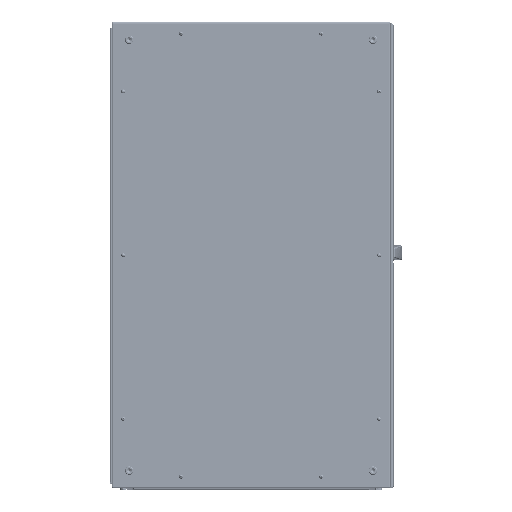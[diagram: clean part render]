
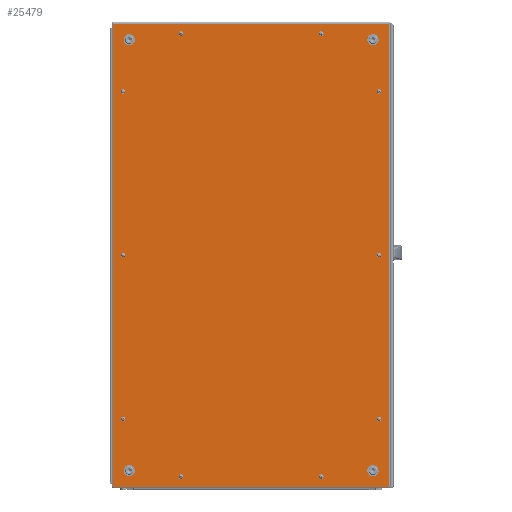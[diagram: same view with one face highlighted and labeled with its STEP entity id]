
A CAD part, top view. The second image highlights one B-rep face of the part: STEP entity #25479.
In plain terms, the highlighted planar face has unit normal (0, 0, 1).
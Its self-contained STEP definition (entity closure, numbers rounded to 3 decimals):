
#25479=ADVANCED_FACE('',(#153616,#153618,#153620,#153622,#153624,#153626,#153628,
#153630,#153632,#153634,#153636,#153638,#153640,#153642,#153644),#153646,.T.);
#153616=FACE_BOUND('',#153617,.T.);
#153617=EDGE_LOOP('',(#377326,#377327,#377328,#377329));
#153618=FACE_BOUND('',#153619,.T.);
#153619=EDGE_LOOP('',(#377330));
#153620=FACE_BOUND('',#153621,.T.);
#153621=EDGE_LOOP('',(#377331));
#153622=FACE_BOUND('',#153623,.T.);
#153623=EDGE_LOOP('',(#377332));
#153624=FACE_BOUND('',#153625,.T.);
#153625=EDGE_LOOP('',(#377333));
#153626=FACE_BOUND('',#153627,.T.);
#153627=EDGE_LOOP('',(#377334));
#153628=FACE_BOUND('',#153629,.T.);
#153629=EDGE_LOOP('',(#377335));
#153630=FACE_BOUND('',#153631,.T.);
#153631=EDGE_LOOP('',(#377336));
#153632=FACE_BOUND('',#153633,.T.);
#153633=EDGE_LOOP('',(#377337));
#153634=FACE_BOUND('',#153635,.T.);
#153635=EDGE_LOOP('',(#377338));
#153636=FACE_BOUND('',#153637,.T.);
#153637=EDGE_LOOP('',(#377339));
#153638=FACE_BOUND('',#153639,.T.);
#153639=EDGE_LOOP('',(#377340));
#153640=FACE_BOUND('',#153641,.T.);
#153641=EDGE_LOOP('',(#377341));
#153642=FACE_BOUND('',#153643,.T.);
#153643=EDGE_LOOP('',(#377342));
#153644=FACE_BOUND('',#153645,.T.);
#153645=EDGE_LOOP('',(#377343));
#153646=PLANE('',#153647);
#153647=AXIS2_PLACEMENT_3D('',#153648,#153649,#153650);
#153648=CARTESIAN_POINT('',(0.,0.,1.5));
#153649=DIRECTION('',(0.,0.,1.));
#153650=DIRECTION('',(0.,1.,0.));
#377326=ORIENTED_EDGE('',*,*,#425259,.T.);
#377327=ORIENTED_EDGE('',*,*,#425260,.T.);
#377328=ORIENTED_EDGE('',*,*,#425261,.T.);
#377329=ORIENTED_EDGE('',*,*,#425262,.T.);
#377330=ORIENTED_EDGE('',*,*,#425238,.T.);
#377331=ORIENTED_EDGE('',*,*,#425237,.T.);
#377332=ORIENTED_EDGE('',*,*,#425236,.T.);
#377333=ORIENTED_EDGE('',*,*,#425235,.T.);
#377334=ORIENTED_EDGE('',*,*,#425234,.T.);
#377335=ORIENTED_EDGE('',*,*,#425233,.T.);
#377336=ORIENTED_EDGE('',*,*,#425229,.T.);
#377337=ORIENTED_EDGE('',*,*,#425230,.T.);
#377338=ORIENTED_EDGE('',*,*,#425231,.T.);
#377339=ORIENTED_EDGE('',*,*,#425232,.T.);
#377340=ORIENTED_EDGE('',*,*,#425227,.T.);
#377341=ORIENTED_EDGE('',*,*,#425226,.T.);
#377342=ORIENTED_EDGE('',*,*,#425225,.T.);
#377343=ORIENTED_EDGE('',*,*,#425224,.T.);
#425224=EDGE_CURVE('',#490170,#490170,#490171,.F.);
#425225=EDGE_CURVE('',#490172,#490172,#490173,.F.);
#425226=EDGE_CURVE('',#490174,#490174,#490175,.F.);
#425227=EDGE_CURVE('',#490176,#490176,#490177,.F.);
#425229=EDGE_CURVE('',#490180,#490180,#490181,.F.);
#425230=EDGE_CURVE('',#490182,#490182,#490183,.F.);
#425231=EDGE_CURVE('',#490184,#490184,#490185,.F.);
#425232=EDGE_CURVE('',#490186,#490186,#490187,.F.);
#425233=EDGE_CURVE('',#490188,#490188,#490189,.F.);
#425234=EDGE_CURVE('',#490190,#490190,#490191,.F.);
#425235=EDGE_CURVE('',#490192,#490192,#490193,.F.);
#425236=EDGE_CURVE('',#490194,#490194,#490195,.F.);
#425237=EDGE_CURVE('',#490196,#490196,#490197,.F.);
#425238=EDGE_CURVE('',#490198,#490198,#490199,.F.);
#425259=EDGE_CURVE('',#490236,#490237,#490238,.T.);
#425260=EDGE_CURVE('',#490237,#490239,#490240,.T.);
#425261=EDGE_CURVE('',#490239,#490241,#490242,.T.);
#425262=EDGE_CURVE('',#490241,#490236,#490243,.T.);
#490170=VERTEX_POINT('',#636738);
#490171=CIRCLE('',#636739,3.75);
#490172=VERTEX_POINT('',#636743);
#490173=CIRCLE('',#636744,3.75);
#490174=VERTEX_POINT('',#636748);
#490175=CIRCLE('',#636749,3.75);
#490176=VERTEX_POINT('',#636753);
#490177=CIRCLE('',#636754,3.75);
#490180=VERTEX_POINT('',#636763);
#490181=CIRCLE('',#636764,7.);
#490182=VERTEX_POINT('',#636768);
#490183=CIRCLE('',#636769,7.);
#490184=VERTEX_POINT('',#636773);
#490185=CIRCLE('',#636774,7.);
#490186=VERTEX_POINT('',#636778);
#490187=CIRCLE('',#636779,7.);
#490188=VERTEX_POINT('',#636783);
#490189=CIRCLE('',#636784,3.75);
#490190=VERTEX_POINT('',#636788);
#490191=CIRCLE('',#636789,3.75);
#490192=VERTEX_POINT('',#636793);
#490193=CIRCLE('',#636794,3.75);
#490194=VERTEX_POINT('',#636798);
#490195=CIRCLE('',#636799,3.75);
#490196=VERTEX_POINT('',#636803);
#490197=CIRCLE('',#636804,3.75);
#490198=VERTEX_POINT('',#636808);
#490199=CIRCLE('',#636809,3.75);
#490236=VERTEX_POINT('',#637025);
#490237=VERTEX_POINT('',#637026);
#490238=LINE('',#637027,#637028);
#490239=VERTEX_POINT('',#637030);
#490240=LINE('',#637031,#637032);
#490241=VERTEX_POINT('',#637034);
#490242=LINE('',#637035,#637036);
#490243=LINE('',#637038,#637039);
#636738=CARTESIAN_POINT('',(-273.5,353.75,1.5));
#636739=AXIS2_PLACEMENT_3D('',#636740,#636741,#636742);
#636740=CARTESIAN_POINT('',(-273.5,350.,1.5));
#636741=DIRECTION('',(0.,0.,1.));
#636742=DIRECTION('',(0.,1.,0.));
#636743=CARTESIAN_POINT('',(273.5,-346.25,1.5));
#636744=AXIS2_PLACEMENT_3D('',#636745,#636746,#636747);
#636745=CARTESIAN_POINT('',(273.5,-350.,1.5));
#636746=DIRECTION('',(0.,0.,1.));
#636747=DIRECTION('',(0.,1.,0.));
#636748=CARTESIAN_POINT('',(273.5,353.75,1.5));
#636749=AXIS2_PLACEMENT_3D('',#636750,#636751,#636752);
#636750=CARTESIAN_POINT('',(273.5,350.,1.5));
#636751=DIRECTION('',(0.,0.,1.));
#636752=DIRECTION('',(0.,1.,0.));
#636753=CARTESIAN_POINT('',(-273.5,-346.25,1.5));
#636754=AXIS2_PLACEMENT_3D('',#636755,#636756,#636757);
#636755=CARTESIAN_POINT('',(-273.5,-350.,1.5));
#636756=DIRECTION('',(0.,0.,1.));
#636757=DIRECTION('',(0.,1.,0.));
#636763=CARTESIAN_POINT('',(260.5,467.5,1.5));
#636764=AXIS2_PLACEMENT_3D('',#636765,#636766,#636767);
#636765=CARTESIAN_POINT('',(260.5,460.5,1.5));
#636766=DIRECTION('',(0.,0.,1.));
#636767=DIRECTION('',(0.,1.,0.));
#636768=CARTESIAN_POINT('',(-260.5,-453.5,1.5));
#636769=AXIS2_PLACEMENT_3D('',#636770,#636771,#636772);
#636770=CARTESIAN_POINT('',(-260.5,-460.5,1.5));
#636771=DIRECTION('',(0.,0.,1.));
#636772=DIRECTION('',(0.,1.,0.));
#636773=CARTESIAN_POINT('',(-260.5,467.5,1.5));
#636774=AXIS2_PLACEMENT_3D('',#636775,#636776,#636777);
#636775=CARTESIAN_POINT('',(-260.5,460.5,1.5));
#636776=DIRECTION('',(0.,0.,1.));
#636777=DIRECTION('',(0.,1.,0.));
#636778=CARTESIAN_POINT('',(260.5,-453.5,1.5));
#636779=AXIS2_PLACEMENT_3D('',#636780,#636781,#636782);
#636780=CARTESIAN_POINT('',(260.5,-460.5,1.5));
#636781=DIRECTION('',(0.,0.,1.));
#636782=DIRECTION('',(0.,1.,0.));
#636783=CARTESIAN_POINT('',(-273.5,3.75,1.5));
#636784=AXIS2_PLACEMENT_3D('',#636785,#636786,#636787);
#636785=CARTESIAN_POINT('',(-273.5,0.,1.5));
#636786=DIRECTION('',(0.,0.,1.));
#636787=DIRECTION('',(0.,1.,0.));
#636788=CARTESIAN_POINT('',(273.5,3.75,1.5));
#636789=AXIS2_PLACEMENT_3D('',#636790,#636791,#636792);
#636790=CARTESIAN_POINT('',(273.5,0.,1.5));
#636791=DIRECTION('',(0.,0.,1.));
#636792=DIRECTION('',(0.,1.,0.));
#636793=CARTESIAN_POINT('',(-150.,-469.75,1.5));
#636794=AXIS2_PLACEMENT_3D('',#636795,#636796,#636797);
#636795=CARTESIAN_POINT('',(-150.,-473.5,1.5));
#636796=DIRECTION('',(0.,0.,1.));
#636797=DIRECTION('',(0.,1.,0.));
#636798=CARTESIAN_POINT('',(150.,477.25,1.5));
#636799=AXIS2_PLACEMENT_3D('',#636800,#636801,#636802);
#636800=CARTESIAN_POINT('',(150.,473.5,1.5));
#636801=DIRECTION('',(0.,0.,1.));
#636802=DIRECTION('',(0.,1.,0.));
#636803=CARTESIAN_POINT('',(-150.,477.25,1.5));
#636804=AXIS2_PLACEMENT_3D('',#636805,#636806,#636807);
#636805=CARTESIAN_POINT('',(-150.,473.5,1.5));
#636806=DIRECTION('',(0.,0.,1.));
#636807=DIRECTION('',(0.,1.,0.));
#636808=CARTESIAN_POINT('',(150.,-469.75,1.5));
#636809=AXIS2_PLACEMENT_3D('',#636810,#636811,#636812);
#636810=CARTESIAN_POINT('',(150.,-473.5,1.5));
#636811=DIRECTION('',(0.,0.,1.));
#636812=DIRECTION('',(0.,1.,0.));
#637025=CARTESIAN_POINT('',(295.2,495.2,1.5));
#637026=CARTESIAN_POINT('',(-295.2,495.2,1.5));
#637027=CARTESIAN_POINT('',(295.2,495.2,1.5));
#637028=VECTOR('',#637029,1.);
#637029=DIRECTION('',(-1.,0.,0.));
#637030=CARTESIAN_POINT('',(-295.2,-495.2,1.5));
#637031=CARTESIAN_POINT('',(-295.2,495.2,1.5));
#637032=VECTOR('',#637033,1.);
#637033=DIRECTION('',(0.,-1.,0.));
#637034=CARTESIAN_POINT('',(295.2,-495.2,1.5));
#637035=CARTESIAN_POINT('',(-295.2,-495.2,1.5));
#637036=VECTOR('',#637037,1.);
#637037=DIRECTION('',(1.,0.,0.));
#637038=CARTESIAN_POINT('',(295.2,-495.2,1.5));
#637039=VECTOR('',#637040,1.);
#637040=DIRECTION('',(0.,1.,0.));
